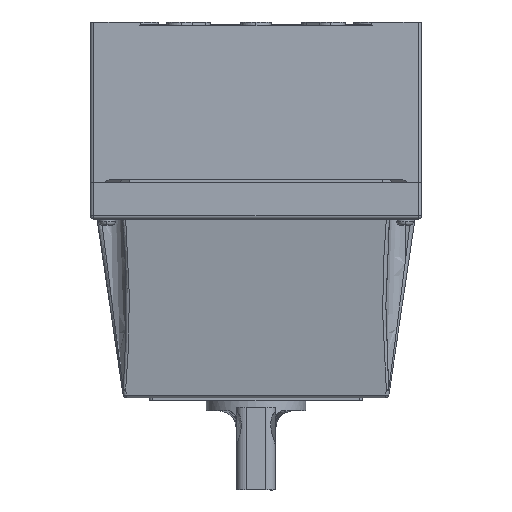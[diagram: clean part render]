
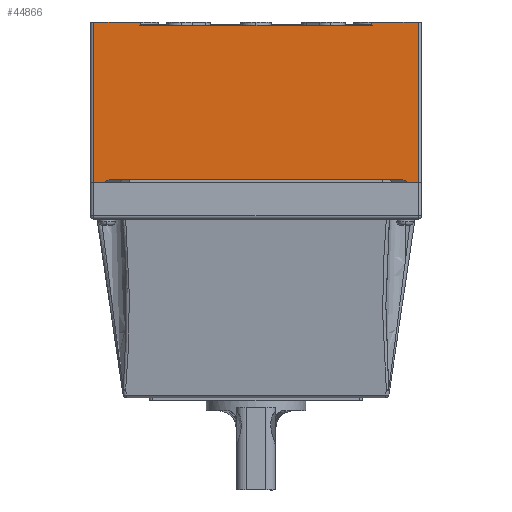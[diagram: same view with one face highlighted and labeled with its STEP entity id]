
A CAD part, left-side view. The second image highlights one B-rep face of the part: STEP entity #44866.
In plain terms, the highlighted planar face has unit normal (-1, 0, 0).
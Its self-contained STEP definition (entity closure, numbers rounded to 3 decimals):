
#850 = DIRECTION ( 'NONE',  ( 0., -0.816, -0.577 ) ) ;
#1731 = CARTESIAN_POINT ( 'NONE',  ( -49.902, -49.048, 23.245 ) ) ;
#2241 = LINE ( 'NONE', #49737, #36576 ) ;
#5051 = DIRECTION ( 'NONE',  ( 0., 1., 0. ) ) ;
#6088 = VECTOR ( 'NONE', #8660, 1000. ) ;
#8332 = CARTESIAN_POINT ( 'NONE',  ( -49.902, 48.952, 23.245 ) ) ;
#8660 = DIRECTION ( 'NONE',  ( 0., -1., 0. ) ) ;
#9164 = VERTEX_POINT ( 'NONE', #88022 ) ;
#10089 = DIRECTION ( 'NONE',  ( 0., -1., 0. ) ) ;
#10436 = VERTEX_POINT ( 'NONE', #85918 ) ;
#10588 = EDGE_CURVE ( 'NONE', #10436, #65209, #2241, .T. ) ;
#11007 = EDGE_CURVE ( 'NONE', #10436, #88377, #74153, .T. ) ;
#11142 = EDGE_CURVE ( 'NONE', #63283, #28440, #51252, .T. ) ;
#11343 = CARTESIAN_POINT ( 'NONE',  ( -49.902, -49.048, -24.255 ) ) ;
#11787 = ORIENTED_EDGE ( 'NONE', *, *, #17599, .T. ) ;
#12020 = VECTOR ( 'NONE', #5051, 1000. ) ;
#13285 = CARTESIAN_POINT ( 'NONE',  ( -49.902, -34.9, 23.245 ) ) ;
#13600 = DIRECTION ( 'NONE',  ( 0., 1., 0. ) ) ;
#14421 = AXIS2_PLACEMENT_3D ( 'NONE', #11343, #84315, #10089 ) ;
#17234 = VECTOR ( 'NONE', #850, 1000. ) ;
#17599 = EDGE_CURVE ( 'NONE', #27409, #88377, #53834, .T. ) ;
#18854 = EDGE_CURVE ( 'NONE', #78369, #65209, #48256, .T. ) ;
#19734 = EDGE_LOOP ( 'NONE', ( #85800, #62908, #69193, #11787, #61947, #55717, #68461, #24187, #88745, #89071, #84897, #88873 ) ) ;
#20017 = CARTESIAN_POINT ( 'NONE',  ( -49.902, 44.296, -25.255 ) ) ;
#20517 = EDGE_CURVE ( 'NONE', #28440, #87127, #93633, .T. ) ;
#20624 = DIRECTION ( 'NONE',  ( 0., -1., 0. ) ) ;
#21841 = DIRECTION ( 'NONE',  ( 0., 1., 0. ) ) ;
#24187 = ORIENTED_EDGE ( 'NONE', *, *, #69975, .T. ) ;
#25319 = EDGE_CURVE ( 'NONE', #81800, #32538, #80676, .T. ) ;
#27409 = VERTEX_POINT ( 'NONE', #73685 ) ;
#28438 = VECTOR ( 'NONE', #13600, 1000. ) ;
#28440 = VERTEX_POINT ( 'NONE', #54843 ) ;
#32320 = LINE ( 'NONE', #48716, #87218 ) ;
#32538 = VERTEX_POINT ( 'NONE', #50751 ) ;
#35470 = LINE ( 'NONE', #63606, #59458 ) ;
#36576 = VECTOR ( 'NONE', #80111, 1000. ) ;
#38524 = LINE ( 'NONE', #64993, #62506 ) ;
#40790 = CARTESIAN_POINT ( 'NONE',  ( -49.902, -34.9, 23.245 ) ) ;
#42000 = CARTESIAN_POINT ( 'NONE',  ( -49.902, 48.952, 23.245 ) ) ;
#42525 = VECTOR ( 'NONE', #20624, 1000. ) ;
#43112 = EDGE_CURVE ( 'NONE', #45038, #32538, #88025, .T. ) ;
#44866 = ADVANCED_FACE ( 'NONE', ( #59852 ), #61534, .F. ) ;
#45005 = LINE ( 'NONE', #8332, #6088 ) ;
#45038 = VERTEX_POINT ( 'NONE', #69217 ) ;
#48256 = LINE ( 'NONE', #13285, #42525 ) ;
#48527 = CARTESIAN_POINT ( 'NONE',  ( -49.902, -49.048, 22.245 ) ) ;
#48716 = CARTESIAN_POINT ( 'NONE',  ( -49.902, -34.9, 23.245 ) ) ;
#49684 = EDGE_CURVE ( 'NONE', #63283, #9164, #35470, .T. ) ;
#49737 = CARTESIAN_POINT ( 'NONE',  ( -49.902, -49.048, -24.255 ) ) ;
#50318 = CARTESIAN_POINT ( 'NONE',  ( -49.902, -34.9, 22.245 ) ) ;
#50751 = CARTESIAN_POINT ( 'NONE',  ( -49.902, 34.805, 22.245 ) ) ;
#51252 = LINE ( 'NONE', #20017, #28438 ) ;
#53834 = LINE ( 'NONE', #94900, #17234 ) ;
#54393 = CARTESIAN_POINT ( 'NONE',  ( -49.902, 34.805, 23.245 ) ) ;
#54843 = CARTESIAN_POINT ( 'NONE',  ( -49.902, 48.952, -25.255 ) ) ;
#55717 = ORIENTED_EDGE ( 'NONE', *, *, #10588, .T. ) ;
#55943 = CARTESIAN_POINT ( 'NONE',  ( -49.902, 48.952, -24.255 ) ) ;
#56252 = DIRECTION ( 'NONE',  ( 0., 0., 1. ) ) ;
#58824 = CARTESIAN_POINT ( 'NONE',  ( -49.902, -45.805, -25.255 ) ) ;
#59282 = CARTESIAN_POINT ( 'NONE',  ( -49.902, 45.71, -25.255 ) ) ;
#59414 = EDGE_CURVE ( 'NONE', #27409, #9164, #38524, .T. ) ;
#59458 = VECTOR ( 'NONE', #63280, 1000. ) ;
#59852 = FACE_OUTER_BOUND ( 'NONE', #19734, .T. ) ;
#61534 = PLANE ( 'NONE',  #14421 ) ;
#61947 = ORIENTED_EDGE ( 'NONE', *, *, #11007, .F. ) ;
#62506 = VECTOR ( 'NONE', #21841, 1000. ) ;
#62834 = CARTESIAN_POINT ( 'NONE',  ( -49.902, -49.048, -25.255 ) ) ;
#62908 = ORIENTED_EDGE ( 'NONE', *, *, #49684, .T. ) ;
#63100 = DIRECTION ( 'NONE',  ( 0., 0., -1. ) ) ;
#63280 = DIRECTION ( 'NONE',  ( 0., -0.816, 0.577 ) ) ;
#63283 = VERTEX_POINT ( 'NONE', #59282 ) ;
#63606 = CARTESIAN_POINT ( 'NONE',  ( -49.902, 46.457, -25.783 ) ) ;
#64993 = CARTESIAN_POINT ( 'NONE',  ( -49.902, -49.048, -24.255 ) ) ;
#65209 = VERTEX_POINT ( 'NONE', #1731 ) ;
#68461 = ORIENTED_EDGE ( 'NONE', *, *, #18854, .F. ) ;
#68511 = VECTOR ( 'NONE', #69066, 1000. ) ;
#69066 = DIRECTION ( 'NONE',  ( 0., 0., -1. ) ) ;
#69193 = ORIENTED_EDGE ( 'NONE', *, *, #59414, .F. ) ;
#69217 = CARTESIAN_POINT ( 'NONE',  ( -49.902, 34.805, 23.245 ) ) ;
#69975 = EDGE_CURVE ( 'NONE', #78369, #81800, #32320, .T. ) ;
#71849 = VECTOR ( 'NONE', #85920, 1000. ) ;
#73154 = EDGE_CURVE ( 'NONE', #87127, #45038, #45005, .T. ) ;
#73685 = CARTESIAN_POINT ( 'NONE',  ( -49.902, -44.391, -24.255 ) ) ;
#74153 = LINE ( 'NONE', #62834, #71849 ) ;
#78369 = VERTEX_POINT ( 'NONE', #40790 ) ;
#80111 = DIRECTION ( 'NONE',  ( 0., 0., 1. ) ) ;
#80676 = LINE ( 'NONE', #48527, #12020 ) ;
#81800 = VERTEX_POINT ( 'NONE', #50318 ) ;
#84315 = DIRECTION ( 'NONE',  ( 1., 0., 0. ) ) ;
#84897 = ORIENTED_EDGE ( 'NONE', *, *, #73154, .F. ) ;
#85800 = ORIENTED_EDGE ( 'NONE', *, *, #11142, .F. ) ;
#85918 = CARTESIAN_POINT ( 'NONE',  ( -49.902, -49.048, -25.255 ) ) ;
#85920 = DIRECTION ( 'NONE',  ( 0., 1., 0. ) ) ;
#87127 = VERTEX_POINT ( 'NONE', #42000 ) ;
#87218 = VECTOR ( 'NONE', #63100, 1000. ) ;
#88022 = CARTESIAN_POINT ( 'NONE',  ( -49.902, 44.296, -24.255 ) ) ;
#88025 = LINE ( 'NONE', #54393, #68511 ) ;
#88377 = VERTEX_POINT ( 'NONE', #58824 ) ;
#88745 = ORIENTED_EDGE ( 'NONE', *, *, #25319, .T. ) ;
#88873 = ORIENTED_EDGE ( 'NONE', *, *, #20517, .F. ) ;
#89071 = ORIENTED_EDGE ( 'NONE', *, *, #43112, .F. ) ;
#92980 = VECTOR ( 'NONE', #56252, 1000. ) ;
#93633 = LINE ( 'NONE', #55943, #92980 ) ;
#94900 = CARTESIAN_POINT ( 'NONE',  ( -49.902, -46.552, -25.783 ) ) ;
